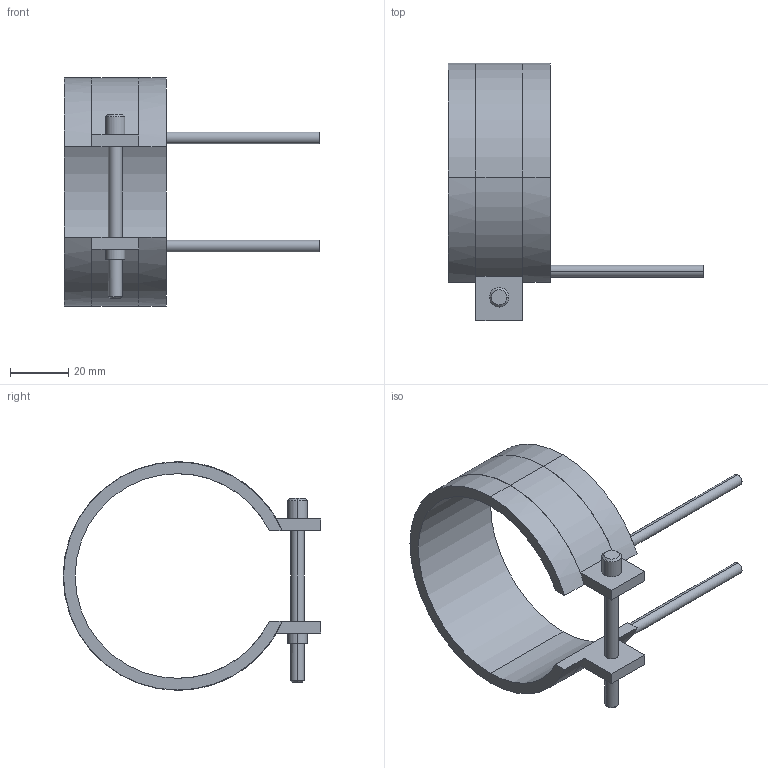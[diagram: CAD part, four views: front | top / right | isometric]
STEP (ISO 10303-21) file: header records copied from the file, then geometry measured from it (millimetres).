
FILE_DESCRIPTION(('CATIA V5 STEP Exchange'),'2;1');
FILE_NAME('C:\Users\Utente\Desktop\IO LAVORO\3D X SITO CF\X SITO\PLASTICA\RF2\14070035.stp','2021-04-01T09:47:34+00:00',('none'),('none'),'CATIA Version 5 Release 20 GA (IN-10)','CATIA V5 STEP AP203','none');
FILE_SCHEMA(('CONFIG_CONTROL_DESIGN'));
Length unit declared in the file: millimetre
Products named in the file (1): 14070035
Bounding box: 87.5 x 88.1 x 78.2 mm (x, y, z)
Volume: 32648.5 mm3; surface area: 19256.5 mm2
Topology: 1 solids, 1 shells, 45 faces, 116 edges, 76 vertices
Faces by surface type: cylinder 24, plane 17, cone 4
Entity records: 1412 total; most frequent: CARTESIAN_POINT 288, ORIENTED_EDGE 232, DIRECTION 195, EDGE_CURVE 116, AXIS2_PLACEMENT_3D 103, VERTEX_POINT 76, CIRCLE 61, VECTOR 52
